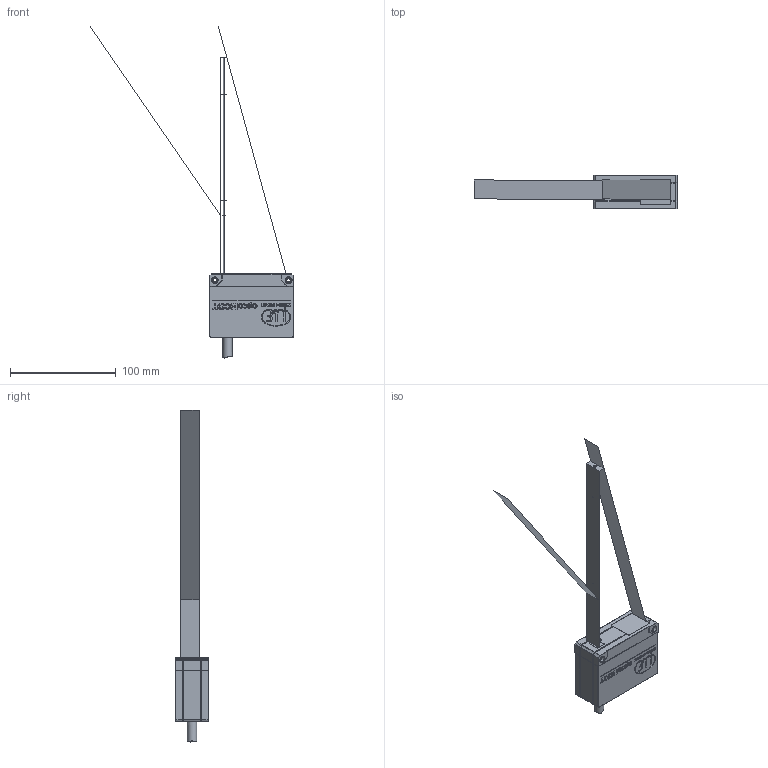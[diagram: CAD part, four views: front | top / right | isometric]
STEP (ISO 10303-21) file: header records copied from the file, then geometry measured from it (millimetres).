
FILE_DESCRIPTION (( 'STEP AP214' ), '1' );
FILE_NAME ('ILD5500-100_Sensormodell_mit_Bauraum.STEP', '2024-11-27T10:04:58', ( '' ), ( '' ), 'SwSTEP 2.0', 'SolidWorks 2022', '' );
FILE_SCHEMA (( 'AUTOMOTIVE_DESIGN' ));
Length unit declared in the file: millimetre
Products named in the file (1): ILD5500-100_Sensormodell_mit_Bauraum
Bounding box: 193.1 x 32 x 314.66 mm (x, y, z)
Surface area: 34144.7 mm2 (no closed solid volume)
Topology: 0 solids, 12 shells, 1672 faces, 4426 edges, 2889 vertices
Faces by surface type: plane 816, bspline 681, cylinder 109, cone 60, torus 6
Full cylindrical faces by diameter (mm): 0.7 x1, 0.8 x1, 2.4 x2, 3.3 x2, 3.5 x1, 6 x2, 8.8 x1, 10 x2, 10.5 x2
Entity records: 80527 total; most frequent: CARTESIAN_POINT 25692, ORIENTED_EDGE 8712, DIRECTION 5238, EDGE_CURVE 4366, VERTEX_POINT 2870, LINE 2716, VECTOR 2716, EDGE_LOOP 1835
